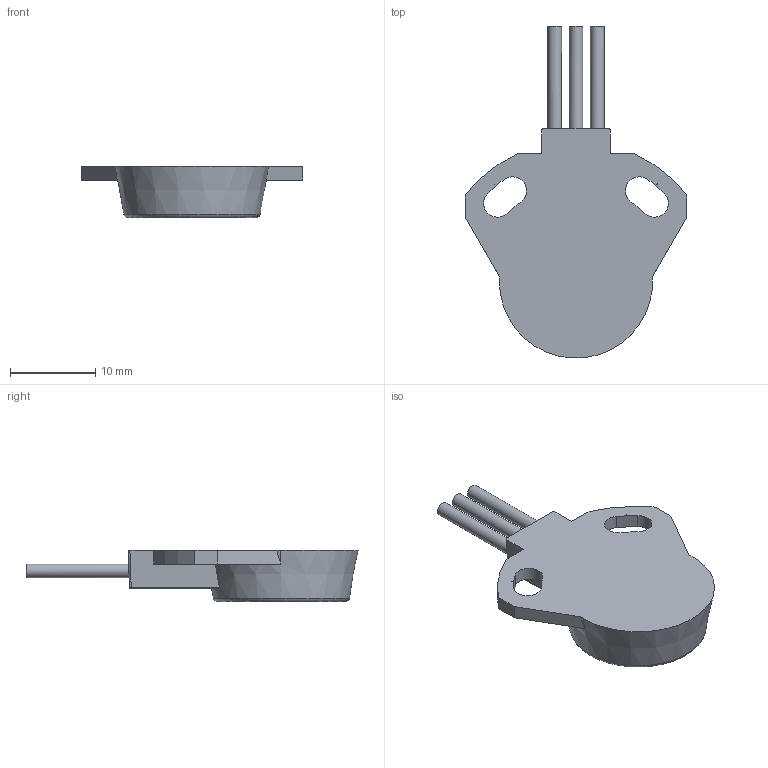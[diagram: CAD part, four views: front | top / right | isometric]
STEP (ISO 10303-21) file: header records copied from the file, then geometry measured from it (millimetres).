
FILE_DESCRIPTION((''),'2;1');
FILE_NAME('K:\Daten\PRAS21.stp','2011-06-16T17:53:05',('kamp'),(''),'Autodesk Inventor 2008','Autodesk Inventor 2008','');
FILE_SCHEMA(('AUTOMOTIVE_DESIGN { 1 0 10303 214 1 1 1 1 }'));
Length unit declared in the file: millimetre
Products named in the file (1): Bauteil12
Bounding box: 26 x 38.98 x 6 mm (x, y, z)
Volume: 1965.1 mm3; surface area: 1517.3 mm2
Topology: 1 solids, 1 shells, 118 faces, 318 edges, 209 vertices
Faces by surface type: plane 70, cylinder 27, bspline 16, sphere 2, cone 2, torus 1
Full cylindrical faces by diameter (mm): 1.6 x3
Entity records: 3845 total; most frequent: CARTESIAN_POINT 886, ORIENTED_EDGE 612, DIRECTION 529, EDGE_CURVE 306, VECTOR 207, LINE 207, VERTEX_POINT 204, AXIS2_PLACEMENT_3D 161
